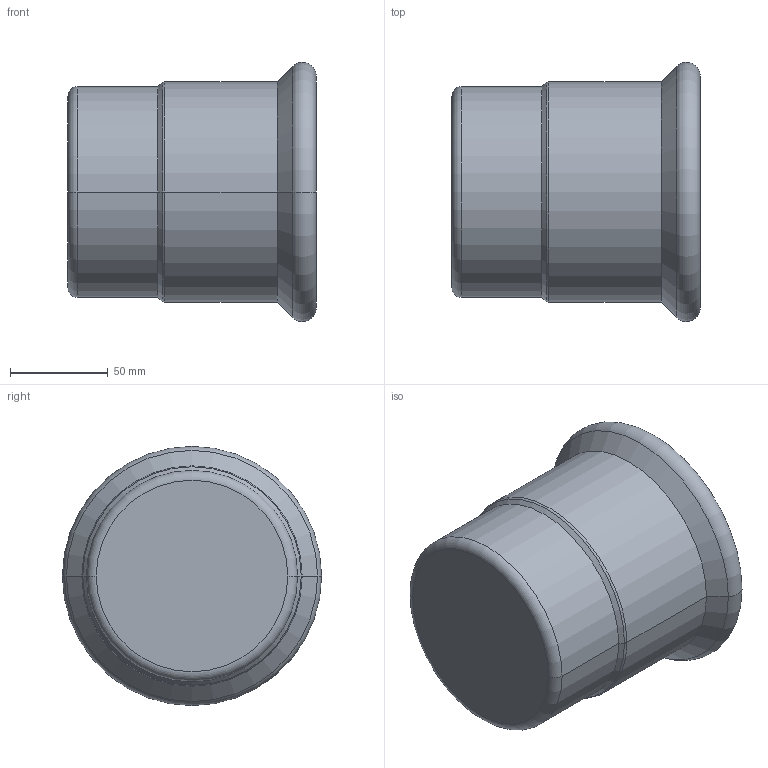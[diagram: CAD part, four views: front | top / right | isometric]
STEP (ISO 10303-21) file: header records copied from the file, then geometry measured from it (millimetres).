
FILE_DESCRIPTION(('OneSpaceDesigner STEP Export'),'2;1');
FILE_NAME('R2729 108.stp','2010-06-10T13:41:38',(''),(''),'OneSpace Designer STEP processor for AP214 (Solid Model)','OneSpace Modeling 15.00A 14-Mar-2007 (C) CoCreate Software GmbH','');
FILE_SCHEMA(('AUTOMOTIVE_DESIGN { 1 0 10303 214 1 1 1 1 }'));
Length unit declared in the file: millimetre
Products named in the file (2): R2729_108
Assembly tree (1 placements, depth 2):
  R2729_108
    R2729_108
Bounding box: 127 x 132.58 x 132.58 mm (x, y, z)
Volume: 180969.5 mm3; surface area: 116772.8 mm2
Topology: 1 solids, 1 shells, 61 faces, 148 edges, 95 vertices
Faces by surface type: plane 32, cylinder 19, torus 6, cone 4
Entity records: 1595 total; most frequent: ORIENTED_EDGE 296, CARTESIAN_POINT 255, DIRECTION 231, EDGE_CURVE 148, VERTEX_POINT 95, VECTOR 89, LINE 89, EDGE_LOOP 73
